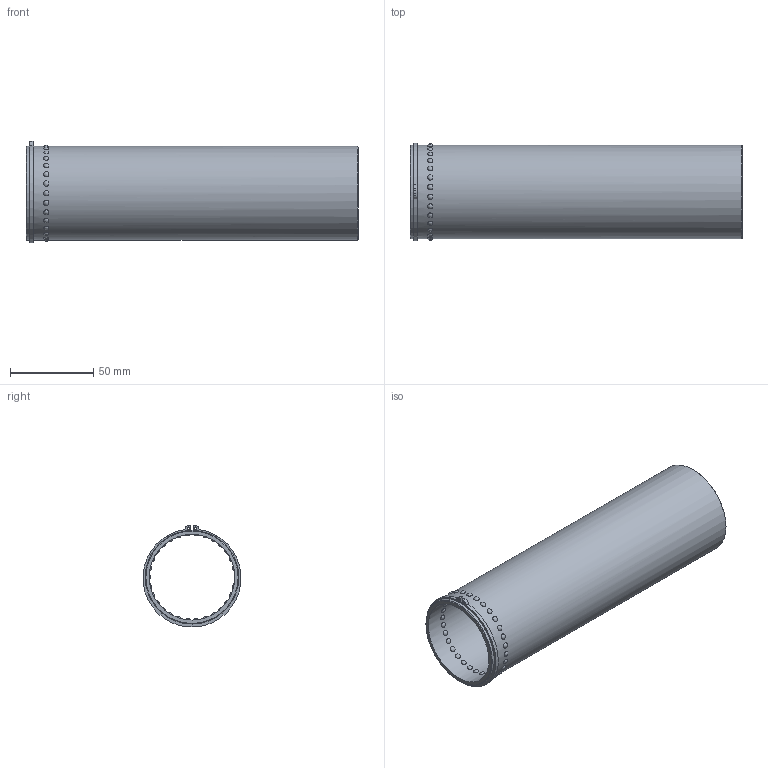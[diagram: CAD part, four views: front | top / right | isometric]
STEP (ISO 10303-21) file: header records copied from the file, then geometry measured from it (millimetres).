
FILE_DESCRIPTION(/* description */ ('Impex Ready, www.impex-ready.pl'),/* implementation_level */ '2;1');
FILE_NAME(/* name */ 'C:\Users\VIKKY\Nextcloud\SM\projekt 10 - części na stronę internetową\Pliki_3D_new\276 Koszyk GSA\276 GSA_STEP\GSA50200.ipt.step',/* time_stamp */ '2021-12-22T12:03:32+01:00',/* author */ ('SM'),/* organization */ (''),/* preprocessor_version */ 'ST-DEVELOPER v18.1',/* originating_system */ 'Autodesk Inventor 2021',/* authorisation */ '');
FILE_SCHEMA (('AUTOMOTIVE_DESIGN { 1 0 10303 214 3 1 1 }'));
Length unit declared in the file: millimetre
Products named in the file (1): GSA50200
Bounding box: 200 x 59.01 x 61.38 mm (x, y, z)
Volume: 82133.3 mm3; surface area: 70269.2 mm2
Topology: 2 solids, 2 shells, 82 faces, 112 edges, 94 vertices
Faces by surface type: sphere 60, cylinder 10, plane 10, cone 2
Full cylindrical faces by diameter (mm): 1.5 x2, 51.6 x1, 55.4 x1, 56.4 x2
Entity records: 4081 total; most frequent: CARTESIAN_POINT 2513, DIRECTION 236, ORIENTED_EDGE 224, EDGE_LOOP 148, EDGE_CURVE 112, AXIS2_PLACEMENT_3D 105, VERTEX_POINT 94, FACE_OUTER_BOUND 82
